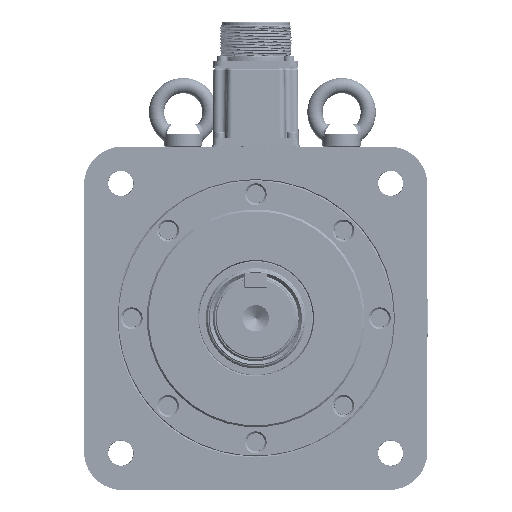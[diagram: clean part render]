
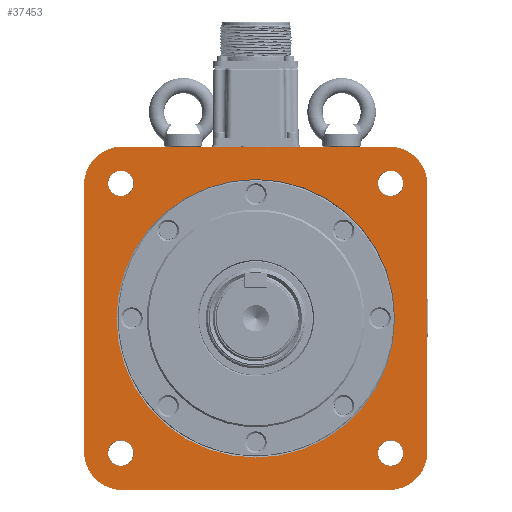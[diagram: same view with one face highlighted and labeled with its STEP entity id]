
A CAD part, front view. The second image highlights one B-rep face of the part: STEP entity #37453.
In plain terms, the highlighted planar face has unit normal (0, -1, 0).
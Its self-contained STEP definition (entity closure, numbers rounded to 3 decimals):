
#2858=LINE('',#69367,#5470);
#2942=LINE('',#73489,#5554);
#2947=LINE('',#73497,#5559);
#2952=LINE('',#73505,#5564);
#5470=VECTOR('',#48229,1000.);
#5554=VECTOR('',#49135,1000.);
#5559=VECTOR('',#49142,1000.);
#5564=VECTOR('',#49149,1000.);
#8064=PLANE('',#41017);
#15092=ORIENTED_EDGE('',*,*,#21871,.T.);
#15093=ORIENTED_EDGE('',*,*,#21785,.F.);
#15094=ORIENTED_EDGE('',*,*,#21794,.F.);
#15095=ORIENTED_EDGE('',*,*,#21815,.F.);
#15096=ORIENTED_EDGE('',*,*,#21805,.F.);
#15097=ORIENTED_EDGE('',*,*,#21841,.T.);
#15098=ORIENTED_EDGE('',*,*,#21845,.T.);
#15099=ORIENTED_EDGE('',*,*,#21836,.T.);
#15100=ORIENTED_EDGE('',*,*,#21846,.T.);
#15101=ORIENTED_EDGE('',*,*,#21831,.T.);
#15102=ORIENTED_EDGE('',*,*,#21847,.T.);
#15103=ORIENTED_EDGE('',*,*,#21363,.T.);
#15104=ORIENTED_EDGE('',*,*,#21844,.T.);
#21363=EDGE_CURVE('',#25600,#25599,#2858,.T.);
#21785=EDGE_CURVE('',#25878,#25878,#28140,.F.);
#21794=EDGE_CURVE('',#25886,#25886,#28146,.F.);
#21805=EDGE_CURVE('',#25896,#25896,#28154,.F.);
#21815=EDGE_CURVE('',#25906,#25906,#28160,.F.);
#21831=EDGE_CURVE('',#25917,#25916,#2942,.T.);
#21836=EDGE_CURVE('',#25919,#25918,#2947,.T.);
#21841=EDGE_CURVE('',#25921,#25920,#2952,.T.);
#21844=EDGE_CURVE('',#25599,#25921,#28166,.F.);
#21845=EDGE_CURVE('',#25920,#25919,#28167,.F.);
#21846=EDGE_CURVE('',#25918,#25917,#28168,.F.);
#21847=EDGE_CURVE('',#25916,#25600,#28169,.F.);
#21871=EDGE_CURVE('',#25933,#25933,#28181,.T.);
#25599=VERTEX_POINT('',#69366);
#25600=VERTEX_POINT('',#69368);
#25878=VERTEX_POINT('',#73392);
#25886=VERTEX_POINT('',#73411);
#25896=VERTEX_POINT('',#73436);
#25906=VERTEX_POINT('',#73458);
#25916=VERTEX_POINT('',#73488);
#25917=VERTEX_POINT('',#73490);
#25918=VERTEX_POINT('',#73496);
#25919=VERTEX_POINT('',#73498);
#25920=VERTEX_POINT('',#73504);
#25921=VERTEX_POINT('',#73506);
#25933=VERTEX_POINT('',#73572);
#28140=CIRCLE('',#40938,6.745);
#28146=CIRCLE('',#40946,6.745);
#28154=CIRCLE('',#40958,6.745);
#28160=CIRCLE('',#40966,6.745);
#28166=CIRCLE('',#40980,20.);
#28167=CIRCLE('',#40982,20.);
#28168=CIRCLE('',#40984,20.);
#28169=CIRCLE('',#40986,20.);
#28181=CIRCLE('',#41018,73.);
#30803=EDGE_LOOP('',(#15092));
#30804=EDGE_LOOP('',(#15093));
#30805=EDGE_LOOP('',(#15094));
#30806=EDGE_LOOP('',(#15095));
#30807=EDGE_LOOP('',(#15096));
#30808=EDGE_LOOP('',(#15097,#15098,#15099,#15100,#15101,#15102,#15103,#15104));
#34118=FACE_BOUND('',#30803,.T.);
#34119=FACE_BOUND('',#30804,.T.);
#34120=FACE_BOUND('',#30805,.T.);
#34121=FACE_BOUND('',#30806,.T.);
#34122=FACE_BOUND('',#30807,.T.);
#34123=FACE_BOUND('',#30808,.T.);
#37453=ADVANCED_FACE('',(#34118,#34119,#34120,#34121,#34122,#34123),#8064,
 .F.);
#40938=AXIS2_PLACEMENT_3D('',#73391,#49037,#49038);
#40946=AXIS2_PLACEMENT_3D('',#73410,#49056,#49057);
#40958=AXIS2_PLACEMENT_3D('',#73435,#49083,#49084);
#40966=AXIS2_PLACEMENT_3D('',#73457,#49103,#49104);
#40980=AXIS2_PLACEMENT_3D('',#73510,#49154,#49155);
#40982=AXIS2_PLACEMENT_3D('',#73512,#49158,#49159);
#40984=AXIS2_PLACEMENT_3D('',#73514,#49162,#49163);
#40986=AXIS2_PLACEMENT_3D('',#73516,#49166,#49167);
#41017=AXIS2_PLACEMENT_3D('',#73570,#49240,#49241);
#41018=AXIS2_PLACEMENT_3D('',#73571,#49242,#49243);
#48229=DIRECTION('',(-1.,0.,0.));
#49037=DIRECTION('',(0.,1.,0.));
#49038=DIRECTION('',(0.,0.,1.));
#49056=DIRECTION('',(0.,1.,0.));
#49057=DIRECTION('',(0.,0.,1.));
#49083=DIRECTION('',(0.,1.,0.));
#49084=DIRECTION('',(0.,0.,1.));
#49103=DIRECTION('',(0.,1.,0.));
#49104=DIRECTION('',(0.,0.,1.));
#49135=DIRECTION('',(0.,0.,1.));
#49142=DIRECTION('',(1.,0.,0.));
#49149=DIRECTION('',(0.,0.,-1.));
#49154=DIRECTION('',(0.,1.,0.));
#49155=DIRECTION('',(0.,0.,1.));
#49158=DIRECTION('',(0.,1.,0.));
#49159=DIRECTION('',(0.,0.,1.));
#49162=DIRECTION('',(0.,1.,0.));
#49163=DIRECTION('',(0.,0.,1.));
#49166=DIRECTION('',(0.,1.,0.));
#49167=DIRECTION('',(0.,0.,1.));
#49240=DIRECTION('',(0.,1.,0.));
#49241=DIRECTION('',(0.,0.,1.));
#49242=DIRECTION('',(0.,1.,0.));
#49243=DIRECTION('',(0.,0.,1.));
#69366=CARTESIAN_POINT('',(-70.,1.3,90.));
#69367=CARTESIAN_POINT('',(90.,1.3,90.));
#69368=CARTESIAN_POINT('',(70.,1.3,90.));
#73391=CARTESIAN_POINT('',(-70.711,1.3,70.711));
#73392=CARTESIAN_POINT('',(-70.711,1.3,77.455));
#73410=CARTESIAN_POINT('',(70.711,1.3,70.711));
#73411=CARTESIAN_POINT('',(70.711,1.3,77.455));
#73435=CARTESIAN_POINT('',(-70.711,1.3,-70.711));
#73436=CARTESIAN_POINT('',(-70.711,1.3,-63.966));
#73457=CARTESIAN_POINT('',(70.711,1.3,-70.711));
#73458=CARTESIAN_POINT('',(70.711,1.3,-63.966));
#73488=CARTESIAN_POINT('',(90.,1.3,70.));
#73489=CARTESIAN_POINT('',(90.,1.3,-90.));
#73490=CARTESIAN_POINT('',(90.,1.3,-70.));
#73496=CARTESIAN_POINT('',(70.,1.3,-90.));
#73497=CARTESIAN_POINT('',(-90.,1.3,-90.));
#73498=CARTESIAN_POINT('',(-70.,1.3,-90.));
#73504=CARTESIAN_POINT('',(-90.,1.3,-70.));
#73505=CARTESIAN_POINT('',(-90.,1.3,90.));
#73506=CARTESIAN_POINT('',(-90.,1.3,70.));
#73510=CARTESIAN_POINT('',(-70.,1.3,70.));
#73512=CARTESIAN_POINT('',(-70.,1.3,-70.));
#73514=CARTESIAN_POINT('',(70.,1.3,-70.));
#73516=CARTESIAN_POINT('',(70.,1.3,70.));
#73570=CARTESIAN_POINT('',(0.,1.3,72.5));
#73571=CARTESIAN_POINT('',(0.,1.3,0.));
#73572=CARTESIAN_POINT('',(0.,1.3,73.));
